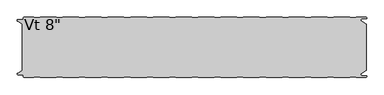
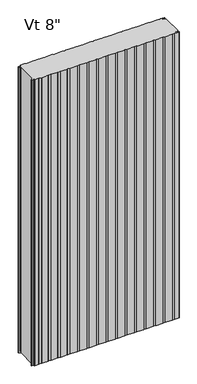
"""IFC4 building model written with IfcOpenShell, lengths in millimetres: plate geometry."""

from ifc_helpers import new_model, si_unit, frame, origin, place, context, project, spatial, polyline, circle_curve, source, transform, mapped, element, save
from ifc_brep_helpers import plane_surface, cylinder_surface, revolved_surface, advanced_brep


def plate_b740a0b7(model_context):
    return source(origin(), model_context, "Body", "AdvancedBrep", [
        advanced_brep(
        [(521.5205195, -201.0088405, 2400.0), (541.3035142, -201.0088405, 2400.0), (542.3760351, -202.1999956, 2400.0), (574.5475652, -202.1999956, 2400.0), (576.5248337, -200.2227271, 2400.0), (576.5248337, -199.1806285, 2400.0), (574.5475652, -197.20336, 2400.0), (560.3591802, -197.20336, 2400.0), (557.7713036, -194.6154835, 2400.0), (557.7713036, -190.2950653, 2400.0), (557.1628365, -189.7060718, 2400.0), (554.7857432, -189.7060718, 2400.0), (554.7857432, -188.7065979, 2400.0), (560.2280123, -188.7065979, 2400.0), (576.2625, -179.4490821, 2400.0), (576.2625, -23.7509179, 2400.0), (560.2280123, -14.4934021, 2400.0), (554.7857432, -14.4934021, 2400.0), (554.7857432, -13.4939282, 2400.0), (557.1628365, -13.4939282, 2400.0), (557.7713036, -12.9049347, 2400.0), (557.7713036, -8.5845165, 2400.0), (560.3591802, -5.99664, 2400.0), (574.5475652, -5.99664, 2400.0), (576.5248337, -4.0193715, 2400.0), (576.5248337, -2.9772729, 2400.0), (574.5475652, -1.0000044, 2400.0), (542.3760351, -1.0000044, 2400.0), (541.3035142, -2.1911595, 2400.0), (521.5205195, -2.1911595, 2400.0), (520.4479947, -1.0, 2400.0), (466.7534187, -1.0, 2400.0), (465.6808939, -2.1911595, 2400.0), (445.8978992, -2.1911595, 2400.0), (444.8253744, -1.0, 2400.0), (391.1307985, -1.0, 2400.0), (390.0582736, -2.1911595, 2400.0), (370.275279, -2.1911595, 2400.0), (369.2027541, -1.0, 2400.0), (315.5081782, -1.0, 2400.0), (314.4356534, -2.1911595, 2400.0), (294.6526587, -2.1911595, 2400.0), (293.5801339, -1.0, 2400.0), (239.885558, -1.0, 2400.0), (238.8130331, -2.1911595, 2400.0), (219.0300384, -2.1911595, 2400.0), (217.9575136, -1.0, 2400.0), (164.2629377, -1.0, 2400.0), (163.1904129, -2.1911595, 2400.0), (143.4074182, -2.1911595, 2400.0), (142.3348933, -1.0, 2400.0), (88.6403174, -1.0, 2400.0), (87.5677926, -2.1911595, 2400.0), (67.7847979, -2.1911595, 2400.0), (66.7122731, -1.0, 2400.0), (13.0176972, -1.0, 2400.0), (11.9451723, -2.1911595, 2400.0), (-7.8378224, -2.1911595, 2400.0), (-8.9103472, -1.0, 2400.0), (-62.6049231, -1.0, 2400.0), (-63.6774479, -2.1911595, 2400.0), (-83.4604426, -2.1911595, 2400.0), (-84.5329675, -1.0, 2400.0), (-138.2275434, -1.0, 2400.0), (-139.3000682, -2.1911595, 2400.0), (-159.0830629, -2.1911595, 2400.0), (-160.1555877, -1.0, 2400.0), (-213.8501636, -1.0, 2400.0), (-214.9226885, -2.1911595, 2400.0), (-234.7056831, -2.1911595, 2400.0), (-235.778208, -1.0, 2400.0), (-289.4727839, -1.0, 2400.0), (-290.5453087, -2.1911595, 2400.0), (-310.3283034, -2.1911595, 2400.0), (-311.4008282, -1.0, 2400.0), (-365.0954042, -1.0, 2400.0), (-366.167929, -2.1911595, 2400.0), (-385.9509237, -2.1911595, 2400.0), (-387.0234485, -1.0, 2400.0), (-440.7180244, -1.0, 2400.0), (-441.7905493, -2.1911595, 2400.0), (-461.5735439, -2.1911595, 2400.0), (-462.6460688, -1.0, 2400.0), (-516.3406447, -1.0, 2400.0), (-517.4131695, -2.1911595, 2400.0), (-537.1961642, -2.1911595, 2400.0), (-538.268689, -1.0000109, 2400.0), (-570.4352761, -1.0000109, 2400.0), (-572.4125501, -2.9772849, 2400.0), (-572.4125501, -5.2691749, 2400.0), (-576.3898173, -9.246442, 2400.0), (-591.9862417, -9.246442, 2400.0), (-592.5741186, -9.8343189, 2400.0), (-592.5741186, -12.9058679, 2400.0), (-591.986242, -13.4937446, 2400.0), (-589.6312064, -13.4937446, 2400.0), (-589.6312064, -14.4937446, 2400.0), (-591.9207851, -14.4937446, 2400.0), (-576.2625, -23.7509179, 2400.0), (-576.2625, -179.4490865, 2400.0), (-591.9207851, -188.7062554, 2400.0), (-589.6312064, -188.7062554, 2400.0), (-589.6312064, -189.7062554, 2400.0), (-591.986242, -189.7062554, 2400.0), (-592.5741186, -190.2941321, 2400.0), (-592.5741186, -193.3656811, 2400.0), (-591.9862417, -193.953558, 2400.0), (-576.3898173, -193.953558, 2400.0), (-572.4125501, -197.9308251, 2400.0), (-572.4125501, -200.2227151, 2400.0), (-570.4352761, -202.1999891, 2400.0), (-538.268689, -202.1999891, 2400.0), (-537.1961642, -201.0088405, 2400.0), (-517.4131695, -201.0088405, 2400.0), (-516.3406447, -202.2, 2400.0), (-462.6460688, -202.2, 2400.0), (-461.5735439, -201.0088405, 2400.0), (-441.7905493, -201.0088405, 2400.0), (-440.7180244, -202.2, 2400.0), (-387.0234485, -202.2, 2400.0), (-385.9509237, -201.0088405, 2400.0), (-366.167929, -201.0088405, 2400.0), (-365.0954042, -202.2, 2400.0), (-311.4008282, -202.2, 2400.0), (-310.3283034, -201.0088405, 2400.0), (-290.5453087, -201.0088405, 2400.0), (-289.4727839, -202.2, 2400.0), (-235.778208, -202.2, 2400.0), (-234.7056831, -201.0088405, 2400.0), (-214.9226885, -201.0088405, 2400.0), (-213.8501636, -202.2, 2400.0), (-160.1555877, -202.2, 2400.0), (-159.0830629, -201.0088405, 2400.0), (-139.3000682, -201.0088405, 2400.0), (-138.2275434, -202.2, 2400.0), (-84.5329675, -202.2, 2400.0), (-83.4604426, -201.0088405, 2400.0), (-63.6774479, -201.0088405, 2400.0), (-62.6049231, -202.2, 2400.0), (-8.9103472, -202.2, 2400.0), (-7.8378224, -201.0088405, 2400.0), (11.9451723, -201.0088405, 2400.0), (13.0176972, -202.2, 2400.0), (66.7122731, -202.2, 2400.0), (67.7847979, -201.0088405, 2400.0), (87.5677926, -201.0088405, 2400.0), (88.6403174, -202.2, 2400.0), (142.3348933, -202.2, 2400.0), (143.4074182, -201.0088405, 2400.0), (163.1904129, -201.0088405, 2400.0), (164.2629377, -202.2, 2400.0), (217.9575136, -202.2, 2400.0), (219.0300384, -201.0088405, 2400.0), (238.8130331, -201.0088405, 2400.0), (239.885558, -202.2, 2400.0), (293.5801339, -202.2, 2400.0), (294.6526587, -201.0088405, 2400.0), (314.4356534, -201.0088405, 2400.0), (315.5081782, -202.2, 2400.0), (369.2027541, -202.2, 2400.0), (370.275279, -201.0088405, 2400.0), (390.0582736, -201.0088405, 2400.0), (391.1307985, -202.2, 2400.0), (444.8253744, -202.2, 2400.0), (445.8978992, -201.0088405, 2400.0), (465.6808939, -201.0088405, 2400.0), (466.7534187, -202.2, 2400.0), (520.4479947, -202.2, 2400.0), (521.5205195, -201.0088405, 0.0), (520.4479947, -202.2, 0.0), (466.7534187, -202.2, 0.0), (465.6808939, -201.0088405, 0.0), (445.8978992, -201.0088405, 0.0), (444.8253744, -202.2, 0.0), (391.1307985, -202.2, 0.0), (390.0582736, -201.0088405, 0.0), (370.275279, -201.0088405, 0.0), (369.2027541, -202.2, 0.0), (315.5081782, -202.2, 0.0), (314.4356534, -201.0088405, 0.0), (294.6526587, -201.0088405, 0.0), (293.5801339, -202.2, 0.0), (239.885558, -202.2, 0.0), (238.8130331, -201.0088405, 0.0), (219.0300384, -201.0088405, 0.0), (217.9575136, -202.2, 0.0), (164.2629377, -202.2, 0.0), (163.1904129, -201.0088405, 0.0), (143.4074182, -201.0088405, 0.0), (142.3348933, -202.2, 0.0), (88.6403174, -202.2, 0.0), (87.5677926, -201.0088405, 0.0), (67.7847979, -201.0088405, 0.0), (66.7122731, -202.2, 0.0), (13.0176972, -202.2, 0.0), (11.9451723, -201.0088405, 0.0), (-7.8378224, -201.0088405, 0.0), (-8.9103472, -202.2, 0.0), (-62.6049231, -202.2, 0.0), (-63.6774479, -201.0088405, 0.0), (-83.4604426, -201.0088405, 0.0), (-84.5329675, -202.2, 0.0), (-138.2275434, -202.2, 0.0), (-139.3000682, -201.0088405, 0.0), (-159.0830629, -201.0088405, 0.0), (-160.1555877, -202.2, 0.0), (-213.8501636, -202.2, 0.0), (-214.9226885, -201.0088405, 0.0), (-234.7056831, -201.0088405, 0.0), (-235.778208, -202.2, 0.0), (-289.4727839, -202.2, 0.0), (-290.5453087, -201.0088405, 0.0), (-310.3283034, -201.0088405, 0.0), (-311.4008282, -202.2, 0.0), (-365.0954042, -202.2, 0.0), (-366.167929, -201.0088405, 0.0), (-385.9509237, -201.0088405, 0.0), (-387.0234485, -202.2, 0.0), (-440.7180244, -202.2, 0.0), (-441.7905493, -201.0088405, 0.0), (-461.5735439, -201.0088405, 0.0), (-462.6460688, -202.2, 0.0), (-516.3406447, -202.2, 0.0), (-517.4131695, -201.0088405, 0.0), (-537.1961642, -201.0088405, 0.0), (-538.268689, -202.1999891, 0.0), (-570.4352761, -202.1999891, 0.0), (-572.4125501, -200.2227151, 0.0), (-572.4125501, -197.9308251, 0.0), (-576.3898173, -193.953558, 0.0), (-591.9862417, -193.953558, 0.0), (-592.5741186, -193.3656811, 0.0), (-592.5741186, -190.2941321, 0.0), (-591.986242, -189.7062554, 0.0), (-589.6312064, -189.7062554, 0.0), (-589.6312064, -188.7062554, 0.0), (-591.9207851, -188.7062554, 0.0), (-576.2625, -179.4490821, 0.0), (-576.2625, -23.7509179, 0.0), (-591.9207851, -14.4937446, 0.0), (-589.6312064, -14.4937446, 0.0), (-589.6312064, -13.4937446, 0.0), (-591.986242, -13.4937446, 0.0), (-592.5741186, -12.9058679, 0.0), (-592.5741186, -9.8343189, 0.0), (-591.9862417, -9.246442, 0.0), (-576.3898173, -9.246442, 0.0), (-572.4125501, -5.2691749, 0.0), (-572.4125501, -2.9772849, 0.0), (-570.4352761, -1.0000109, 0.0), (-538.268689, -1.0000109, 0.0), (-537.1961642, -2.1911595, 0.0), (-517.4131695, -2.1911595, 0.0), (-516.3406447, -1.0, 0.0), (-462.6460688, -1.0, 0.0), (-461.5735439, -2.1911595, 0.0), (-441.7905493, -2.1911595, 0.0), (-440.7180244, -1.0, 0.0), (-387.0234485, -1.0, 0.0), (-385.9509237, -2.1911595, 0.0), (-366.167929, -2.1911595, 0.0), (-365.0954042, -1.0, 0.0), (-311.4008282, -1.0, 0.0), (-310.3283034, -2.1911595, 0.0), (-290.5453087, -2.1911595, 0.0), (-289.4727839, -1.0, 0.0), (-235.778208, -1.0, 0.0), (-234.7056831, -2.1911595, 0.0), (-214.9226885, -2.1911595, 0.0), (-213.8501636, -1.0, 0.0), (-160.1555877, -1.0, 0.0), (-159.0830629, -2.1911595, 0.0), (-139.3000682, -2.1911595, 0.0), (-138.2275434, -1.0, 0.0), (-84.5329675, -1.0, 0.0), (-83.4604426, -2.1911595, 0.0), (-63.6774479, -2.1911595, 0.0), (-62.6049231, -1.0, 0.0), (-8.9103472, -1.0, 0.0), (-7.8378224, -2.1911595, 0.0), (11.9451723, -2.1911595, 0.0), (13.0176972, -1.0, 0.0), (66.7122731, -1.0, 0.0), (67.7847979, -2.1911595, 0.0), (87.5677926, -2.1911595, 0.0), (88.6403174, -1.0, 0.0), (142.3348933, -1.0, 0.0), (143.4074182, -2.1911595, 0.0), (163.1904129, -2.1911595, 0.0), (164.2629377, -1.0, 0.0), (217.9575136, -1.0, 0.0), (219.0300384, -2.1911595, 0.0), (238.8130331, -2.1911595, 0.0), (239.885558, -1.0, 0.0), (293.5801339, -1.0, 0.0), (294.6526587, -2.1911595, 0.0), (314.4356534, -2.1911595, 0.0), (315.5081782, -1.0, 0.0), (369.2027541, -1.0, 0.0), (370.275279, -2.1911595, 0.0), (390.0582736, -2.1911595, 0.0), (391.1307985, -1.0, 0.0), (444.8253744, -1.0, 0.0), (445.8978992, -2.1911595, 0.0), (465.6808939, -2.1911595, 0.0), (466.7534187, -1.0, 0.0), (520.4479947, -1.0, 0.0), (521.5205195, -2.1911595, 0.0), (541.3035142, -2.1911595, 0.0), (542.3760351, -1.0000044, 0.0), (574.5475652, -1.0000044, 0.0), (576.5248337, -2.9772729, 0.0), (576.5248337, -4.0193715, 0.0), (574.5475652, -5.99664, 0.0), (560.3591802, -5.99664, 0.0), (557.7713036, -8.5845165, 0.0), (557.7713036, -12.9049347, 0.0), (557.1628365, -13.4939282, 0.0), (554.7857432, -13.4939282, 0.0), (554.7857432, -14.4934021, 0.0), (560.2280123, -14.4934021, 0.0), (576.2625, -23.7509179, 0.0), (576.2625, -179.4490865, 0.0), (560.2280123, -188.7065979, 0.0), (554.7857432, -188.7065979, 0.0), (554.7857432, -189.7060718, 0.0), (557.1628365, -189.7060718, 0.0), (557.7713036, -190.2950653, 0.0), (557.7713036, -194.6154835, 0.0), (560.3591802, -197.20336, 0.0), (574.5475652, -197.20336, 0.0), (576.5248337, -199.1806285, 0.0), (576.5248337, -200.2227271, 0.0), (574.5475652, -202.1999956, 0.0), (542.3760351, -202.1999956, 0.0), (541.3035142, -201.0088405, 0.0)],
        [
            (0, 1),
            (1, 2),
            (2, 3),
            (3, 4, circle_curve(frame((574.5475652, -200.2227271, 2400.0), z_axis=(0.0, 0.0, 1.0), x_axis=(-1.0, 0.0, 0.0)), 1.9772685)),
            (4, 5),
            (5, 6, circle_curve(frame((574.5475652, -199.1806285, 2400.0), z_axis=(0.0, 0.0, 1.0), x_axis=(-1.0, 0.0, 0.0)), 1.9772685)),
            (6, 7),
            (7, 8, circle_curve(frame((560.3591802, -194.6154835, 2400.0), z_axis=(0.0, 0.0, -1.0), x_axis=(-1.0, 0.0, 0.0)), 2.5878765)),
            (8, 9),
            (9, 10, circle_curve(frame((557.1819985, -190.2950653, 2400.0), z_axis=(0.0, 0.0, 1.0), x_axis=(-1.0, 0.0, 0.0)), 0.5893051)),
            (10, 11),
            (11, 12),
            (12, 13),
            (13, 14),
            (14, 15),
            (15, 16),
            (16, 17),
            (17, 18),
            (18, 19),
            (19, 20, circle_curve(frame((557.1819985, -12.9049347, 2400.0), z_axis=(0.0, 0.0, 1.0), x_axis=(0.0, 1.0, 0.0)), 0.5893051)),
            (20, 21),
            (21, 22, circle_curve(frame((560.3591802, -8.5845165, 2400.0), z_axis=(0.0, 0.0, -1.0), x_axis=(0.0, 1.0, 0.0)), 2.5878765)),
            (22, 23),
            (23, 24, circle_curve(frame((574.5475652, -4.0193715, 2400.0), z_axis=(0.0, 0.0, 1.0), x_axis=(0.0, 1.0, 0.0)), 1.9772685)),
            (24, 25),
            (25, 26, circle_curve(frame((574.5475652, -2.9772729, 2400.0), z_axis=(0.0, 0.0, 1.0), x_axis=(0.0, 1.0, 0.0)), 1.9772685)),
            (26, 27),
            (27, 28),
            (28, 29),
            (29, 30),
            (30, 31),
            (31, 32),
            (32, 33),
            (33, 34),
            (34, 35),
            (35, 36),
            (36, 37),
            (37, 38),
            (38, 39),
            (39, 40),
            (40, 41),
            (41, 42),
            (42, 43),
            (43, 44),
            (44, 45),
            (45, 46),
            (46, 47),
            (47, 48),
            (48, 49),
            (49, 50),
            (50, 51),
            (51, 52),
            (52, 53),
            (53, 54),
            (54, 55),
            (55, 56),
            (56, 57),
            (57, 58),
            (58, 59),
            (59, 60),
            (60, 61),
            (61, 62),
            (62, 63),
            (63, 64),
            (64, 65),
            (65, 66),
            (66, 67),
            (67, 68),
            (68, 69),
            (69, 70),
            (70, 71),
            (71, 72),
            (72, 73),
            (73, 74),
            (74, 75),
            (75, 76),
            (76, 77),
            (77, 78),
            (78, 79),
            (79, 80),
            (80, 81),
            (81, 82),
            (82, 83),
            (83, 84),
            (84, 85),
            (85, 86),
            (86, 87),
            (87, 88, circle_curve(frame((-570.4352761, -2.9772849, 2400.0), z_axis=(0.0, 0.0, 1.0), x_axis=(0.0, 1.0, 0.0)), 1.977274)),
            (88, 89),
            (89, 90, circle_curve(frame((-576.3898173, -5.2691749, 2400.0), z_axis=(0.0, 0.0, -1.0), x_axis=(0.0, 1.0, 0.0)), 3.9772671)),
            (90, 91),
            (91, 92, circle_curve(frame((-591.9862417, -9.8343189, 2400.0), z_axis=(0.0, 0.0, 1.0), x_axis=(0.0, 1.0, 0.0)), 0.5878769)),
            (92, 93),
            (93, 94, circle_curve(frame((-591.986242, -12.9058679, 2400.0), z_axis=(0.0, 0.0, 1.0), x_axis=(0.0, 1.0, 0.0)), 0.5878766)),
            (94, 95),
            (95, 96),
            (96, 97),
            (97, 98),
            (98, 99),
            (99, 100),
            (100, 101),
            (101, 102),
            (102, 103),
            (103, 104, circle_curve(frame((-591.986242, -190.2941321, 2400.0), z_axis=(0.0, 0.0, 1.0), x_axis=(-1.0, 0.0, 0.0)), 0.5878766)),
            (104, 105),
            (105, 106, circle_curve(frame((-591.9862417, -193.3656811, 2400.0), z_axis=(0.0, 0.0, 1.0), x_axis=(-1.0, 0.0, 0.0)), 0.5878769)),
            (106, 107),
            (107, 108, circle_curve(frame((-576.3898173, -197.9308251, 2400.0), z_axis=(0.0, 0.0, -1.0), x_axis=(-1.0, 0.0, 0.0)), 3.9772671)),
            (108, 109),
            (109, 110, circle_curve(frame((-570.4352761, -200.2227151, 2400.0), z_axis=(0.0, 0.0, 1.0), x_axis=(-1.0, 0.0, 0.0)), 1.977274)),
            (110, 111),
            (111, 112),
            (112, 113),
            (113, 114),
            (114, 115),
            (115, 116),
            (116, 117),
            (117, 118),
            (118, 119),
            (119, 120),
            (120, 121),
            (121, 122),
            (122, 123),
            (123, 124),
            (124, 125),
            (125, 126),
            (126, 127),
            (127, 128),
            (128, 129),
            (129, 130),
            (130, 131),
            (131, 132),
            (132, 133),
            (133, 134),
            (134, 135),
            (135, 136),
            (136, 137),
            (137, 138),
            (138, 139),
            (139, 140),
            (140, 141),
            (141, 142),
            (142, 143),
            (143, 144),
            (144, 145),
            (145, 146),
            (146, 147),
            (147, 148),
            (148, 149),
            (149, 150),
            (150, 151),
            (151, 152),
            (152, 153),
            (153, 154),
            (154, 155),
            (155, 156),
            (156, 157),
            (157, 158),
            (158, 159),
            (159, 160),
            (160, 161),
            (161, 162),
            (162, 163),
            (163, 164),
            (164, 165),
            (165, 166),
            (166, 167),
            (167, 0),
            (168, 169),
            (169, 170),
            (170, 171),
            (171, 172),
            (172, 173),
            (173, 174),
            (174, 175),
            (175, 176),
            (176, 177),
            (177, 178),
            (178, 179),
            (179, 180),
            (180, 181),
            (181, 182),
            (182, 183),
            (183, 184),
            (184, 185),
            (185, 186),
            (186, 187),
            (187, 188),
            (188, 189),
            (189, 190),
            (190, 191),
            (191, 192),
            (192, 193),
            (193, 194),
            (194, 195),
            (195, 196),
            (196, 197),
            (197, 198),
            (198, 199),
            (199, 200),
            (200, 201),
            (201, 202),
            (202, 203),
            (203, 204),
            (204, 205),
            (205, 206),
            (206, 207),
            (207, 208),
            (208, 209),
            (209, 210),
            (210, 211),
            (211, 212),
            (212, 213),
            (213, 214),
            (214, 215),
            (215, 216),
            (216, 217),
            (217, 218),
            (218, 219),
            (219, 220),
            (220, 221),
            (221, 222),
            (222, 223),
            (223, 224),
            (224, 225),
            (225, 226),
            (226, 227, circle_curve(frame((-570.4352761, -200.2227151, 0.0), z_axis=(0.0, 0.0, -1.0), x_axis=(-1.0, 0.0, 0.0)), 1.977274)),
            (227, 228),
            (228, 229, circle_curve(frame((-576.3898173, -197.9308251, 0.0), z_axis=(0.0, 0.0, 1.0), x_axis=(-1.0, 0.0, 0.0)), 3.9772671)),
            (229, 230),
            (230, 231, circle_curve(frame((-591.9862417, -193.3656811, 0.0), z_axis=(0.0, 0.0, -1.0), x_axis=(-1.0, 0.0, 0.0)), 0.5878769)),
            (231, 232),
            (232, 233, circle_curve(frame((-591.986242, -190.2941321, 0.0), z_axis=(0.0, 0.0, -1.0), x_axis=(-1.0, 0.0, 0.0)), 0.5878766)),
            (233, 234),
            (234, 235),
            (235, 236),
            (236, 237),
            (237, 238),
            (238, 239),
            (239, 240),
            (240, 241),
            (241, 242),
            (242, 243, circle_curve(frame((-591.986242, -12.9058679, 0.0), z_axis=(0.0, 0.0, -1.0), x_axis=(0.0, 1.0, 0.0)), 0.5878766)),
            (243, 244),
            (244, 245, circle_curve(frame((-591.9862417, -9.8343189, 0.0), z_axis=(0.0, 0.0, -1.0), x_axis=(0.0, 1.0, 0.0)), 0.5878769)),
            (245, 246),
            (246, 247, circle_curve(frame((-576.3898173, -5.2691749, 0.0), z_axis=(0.0, 0.0, 1.0), x_axis=(0.0, 1.0, 0.0)), 3.9772671)),
            (247, 248),
            (248, 249, circle_curve(frame((-570.4352761, -2.9772849, 0.0), z_axis=(0.0, 0.0, -1.0), x_axis=(0.0, 1.0, 0.0)), 1.977274)),
            (249, 250),
            (250, 251),
            (251, 252),
            (252, 253),
            (253, 254),
            (254, 255),
            (255, 256),
            (256, 257),
            (257, 258),
            (258, 259),
            (259, 260),
            (260, 261),
            (261, 262),
            (262, 263),
            (263, 264),
            (264, 265),
            (265, 266),
            (266, 267),
            (267, 268),
            (268, 269),
            (269, 270),
            (270, 271),
            (271, 272),
            (272, 273),
            (273, 274),
            (274, 275),
            (275, 276),
            (276, 277),
            (277, 278),
            (278, 279),
            (279, 280),
            (280, 281),
            (281, 282),
            (282, 283),
            (283, 284),
            (284, 285),
            (285, 286),
            (286, 287),
            (287, 288),
            (288, 289),
            (289, 290),
            (290, 291),
            (291, 292),
            (292, 293),
            (293, 294),
            (294, 295),
            (295, 296),
            (296, 297),
            (297, 298),
            (298, 299),
            (299, 300),
            (300, 301),
            (301, 302),
            (302, 303),
            (303, 304),
            (304, 305),
            (305, 306),
            (306, 307),
            (307, 308),
            (308, 309),
            (309, 310),
            (310, 311, circle_curve(frame((574.5475652, -2.9772729, 0.0), z_axis=(0.0, 0.0, -1.0), x_axis=(0.0, 1.0, 0.0)), 1.9772685)),
            (311, 312),
            (312, 313, circle_curve(frame((574.5475652, -4.0193715, 0.0), z_axis=(0.0, 0.0, -1.0), x_axis=(0.0, 1.0, 0.0)), 1.9772685)),
            (313, 314),
            (314, 315, circle_curve(frame((560.3591802, -8.5845165, 0.0), z_axis=(0.0, 0.0, 1.0), x_axis=(0.0, 1.0, 0.0)), 2.5878765)),
            (315, 316),
            (316, 317, circle_curve(frame((557.1819985, -12.9049347, 0.0), z_axis=(0.0, 0.0, -1.0), x_axis=(0.0, 1.0, 0.0)), 0.5893051)),
            (317, 318),
            (318, 319),
            (319, 320),
            (320, 321),
            (321, 322),
            (322, 323),
            (323, 324),
            (324, 325),
            (325, 326),
            (326, 327, circle_curve(frame((557.1819985, -190.2950653, 0.0), z_axis=(0.0, 0.0, -1.0), x_axis=(-1.0, 0.0, 0.0)), 0.5893051)),
            (327, 328),
            (328, 329, circle_curve(frame((560.3591802, -194.6154835, 0.0), z_axis=(0.0, 0.0, 1.0), x_axis=(-1.0, 0.0, 0.0)), 2.5878765)),
            (329, 330),
            (330, 331, circle_curve(frame((574.5475652, -199.1806285, 0.0), z_axis=(0.0, 0.0, -1.0), x_axis=(-1.0, 0.0, 0.0)), 1.9772685)),
            (331, 332),
            (332, 333, circle_curve(frame((574.5475652, -200.2227271, 0.0), z_axis=(0.0, 0.0, -1.0), x_axis=(-1.0, 0.0, 0.0)), 1.9772685)),
            (333, 334),
            (334, 335),
            (335, 168),
            (98, 238),
            (237, 99),
            (14, 322),
            (321, 15),
            (28, 308),
            (307, 29),
            (27, 309),
            (26, 310),
            (25, 311),
            (24, 312),
            (23, 313),
            (22, 314),
            (21, 315),
            (20, 316),
            (19, 317),
            (18, 318),
            (17, 319),
            (16, 320),
            (97, 239),
            (96, 240),
            (95, 241),
            (94, 242),
            (93, 243),
            (92, 244),
            (91, 245),
            (90, 246),
            (89, 247),
            (88, 248),
            (87, 249),
            (86, 250),
            (85, 251),
            (84, 252),
            (83, 253),
            (82, 254),
            (81, 255),
            (80, 256),
            (79, 257),
            (78, 258),
            (77, 259),
            (76, 260),
            (75, 261),
            (74, 262),
            (73, 263),
            (72, 264),
            (71, 265),
            (70, 266),
            (69, 267),
            (68, 268),
            (67, 269),
            (66, 270),
            (65, 271),
            (64, 272),
            (63, 273),
            (62, 274),
            (61, 275),
            (60, 276),
            (59, 277),
            (58, 278),
            (57, 279),
            (56, 280),
            (55, 281),
            (54, 282),
            (53, 283),
            (52, 284),
            (51, 285),
            (50, 286),
            (49, 287),
            (48, 288),
            (47, 289),
            (46, 290),
            (45, 291),
            (44, 292),
            (43, 293),
            (42, 294),
            (41, 295),
            (40, 296),
            (39, 297),
            (38, 298),
            (37, 299),
            (36, 300),
            (35, 301),
            (34, 302),
            (33, 303),
            (32, 304),
            (31, 305),
            (30, 306),
            (167, 169),
            (168, 0),
            (166, 170),
            (165, 171),
            (164, 172),
            (163, 173),
            (162, 174),
            (161, 175),
            (160, 176),
            (159, 177),
            (158, 178),
            (157, 179),
            (156, 180),
            (155, 181),
            (154, 182),
            (153, 183),
            (152, 184),
            (151, 185),
            (150, 186),
            (149, 187),
            (148, 188),
            (147, 189),
            (146, 190),
            (145, 191),
            (144, 192),
            (143, 193),
            (142, 194),
            (141, 195),
            (140, 196),
            (139, 197),
            (138, 198),
            (137, 199),
            (136, 200),
            (135, 201),
            (134, 202),
            (133, 203),
            (132, 204),
            (131, 205),
            (130, 206),
            (129, 207),
            (128, 208),
            (127, 209),
            (126, 210),
            (125, 211),
            (124, 212),
            (123, 213),
            (122, 214),
            (121, 215),
            (120, 216),
            (119, 217),
            (118, 218),
            (117, 219),
            (116, 220),
            (115, 221),
            (114, 222),
            (113, 223),
            (112, 224),
            (111, 225),
            (110, 226),
            (109, 227),
            (108, 228),
            (107, 229),
            (106, 230),
            (105, 231),
            (104, 232),
            (103, 233),
            (102, 234),
            (101, 235),
            (100, 236),
            (13, 323),
            (12, 324),
            (11, 325),
            (10, 326),
            (9, 327),
            (8, 328),
            (7, 329),
            (6, 330),
            (5, 331),
            (4, 332),
            (3, 333),
            (2, 334),
            (1, 335),
        ],
        [
            plane_surface(frame((0.0, -202.2, 2400.0), z_axis=(0.0, 0.0, 1.0), x_axis=(0.0, -1.0, 0.0))),
            plane_surface(frame((0.0, -202.2, 0.0), z_axis=(0.0, 0.0, -1.0), x_axis=(0.0, -1.0, 0.0))),
            plane_surface(frame((-576.2625, -179.4490865, 2400.0), z_axis=(-1.0, 0.0, 0.0), x_axis=(0.0, 0.0, -1.0))),
            plane_surface(frame((576.2625, -23.7509179, 2400.0), z_axis=(1.0, 0.0, 0.0), x_axis=(0.0, 0.0, -1.0))),
            plane_surface(frame((521.5205195, -2.1911595, 2400.0), z_axis=(0.0, 1.0, 0.0), x_axis=(0.0, 0.0, -1.0))),
            plane_surface(frame((541.3035142, -2.1911595, 2400.0), z_axis=(-0.7431448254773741, 0.6691306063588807, 0.0), x_axis=(0.0, 0.0, -1.0))),
            plane_surface(frame((542.3760351, -1.0000044, 2400.0), z_axis=(0.0, 1.0, 0.0), x_axis=(0.0, 0.0, -1.0))),
            cylinder_surface(frame((574.5475652, -2.9772729, 2400.0), z_axis=(0.0, 0.0, 1.0), x_axis=(0.0, 1.0, 0.0)), 1.9772685),
            plane_surface(frame((576.5248337, -2.9772729, 2400.0), z_axis=(1.0, 0.0, 0.0), x_axis=(0.0, 0.0, -1.0))),
            cylinder_surface(frame((574.5475652, -4.0193715, 2400.0), z_axis=(0.0, 0.0, 1.0), x_axis=(0.0, 1.0, 0.0)), 1.9772685),
            plane_surface(frame((574.5475652, -5.99664, 2400.0), z_axis=(0.0, -1.0, 0.0), x_axis=(0.0, 0.0, -1.0))),
            revolved_surface(polyline([(560.3591802, -5.996639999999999, 0.0), (560.3591802, -5.996639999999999, 2400.0)]), (560.3591802, -8.5845165, 2400.0), (0.0, 0.0, -1.0)),
            plane_surface(frame((557.7713036, -8.5845165, 2400.0), z_axis=(1.0, 0.0, 0.0), x_axis=(0.0, 0.0, -1.0))),
            cylinder_surface(frame((557.1819985, -12.9049347, 2400.0), z_axis=(0.0, 0.0, 1.0), x_axis=(0.0, 1.0, 0.0)), 0.5893051),
            plane_surface(frame((557.1628365, -13.4939282, 2400.0), z_axis=(0.0, -1.0, 0.0), x_axis=(0.0, 0.0, -1.0))),
            plane_surface(frame((554.7857432, -13.4939282, 2400.0), z_axis=(1.0, 0.0, 0.0), x_axis=(0.0, 0.0, -1.0))),
            plane_surface(frame((554.7857432, -14.4934021, 2400.0), z_axis=(0.0, 1.0, 0.0), x_axis=(0.0, 0.0, -1.0))),
            plane_surface(frame((560.2280123, -14.4934021, 2400.0), z_axis=(0.5000000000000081, 0.866025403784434, 0.0), x_axis=(0.0, 0.0, -1.0))),
            plane_surface(frame((-576.2625, -23.7509179, 2400.0), z_axis=(-0.5089147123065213, -0.860816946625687, 0.0), x_axis=(0.0, 0.0, -1.0))),
            plane_surface(frame((-591.9207851, -14.4937446, 2400.0), z_axis=(0.0, 1.0, 0.0), x_axis=(0.0, 0.0, -1.0))),
            plane_surface(frame((-589.6312064, -14.4937446, 2400.0), z_axis=(-1.0, 0.0, 0.0), x_axis=(0.0, 0.0, -1.0))),
            plane_surface(frame((-589.6312064, -13.4937446, 2400.0), z_axis=(0.0, -1.0, 0.0), x_axis=(0.0, 0.0, -1.0))),
            cylinder_surface(frame((-591.986242, -12.9058679, 2400.0), z_axis=(0.0, 0.0, 1.0), x_axis=(0.0, 1.0, 0.0)), 0.5878766),
            plane_surface(frame((-592.5741186, -12.9058679, 2400.0), z_axis=(-1.0, 0.0, 0.0), x_axis=(0.0, 0.0, -1.0))),
            cylinder_surface(frame((-591.9862417, -9.8343189, 2400.0), z_axis=(0.0, 0.0, 1.0), x_axis=(0.0, 1.0, 0.0)), 0.5878769),
            plane_surface(frame((-591.9862417, -9.246442, 2400.0), z_axis=(0.0, 1.0, 0.0), x_axis=(0.0, 0.0, -1.0))),
            revolved_surface(polyline([(-576.3898173, -1.2919078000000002, 0.0), (-576.3898173, -1.2919078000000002, 2400.0)]), (-576.3898173, -5.2691749, 2400.0), (0.0, 0.0, -1.0)),
            plane_surface(frame((-572.4125501, -5.2691749, 2400.0), z_axis=(-1.0, 0.0, 0.0), x_axis=(0.0, 0.0, -1.0))),
            cylinder_surface(frame((-570.4352761, -2.9772849, 2400.0), z_axis=(0.0, 0.0, 1.0), x_axis=(0.0, 1.0, 0.0)), 1.977274),
            plane_surface(frame((-570.4352761, -1.0000109, 2400.0), z_axis=(0.0, 1.0, 0.0), x_axis=(0.0, 0.0, -1.0))),
            plane_surface(frame((-538.268689, -1.0000109, 2400.0), z_axis=(0.7431417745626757, 0.669133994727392, 0.0), x_axis=(0.0, 0.0, -1.0))),
            plane_surface(frame((-537.1961642, -2.1911595, 2400.0), z_axis=(0.0, 1.0, 0.0), x_axis=(0.0, 0.0, -1.0))),
            plane_surface(frame((-517.4131695, -2.1911595, 2400.0), z_axis=(-0.7431448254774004, 0.6691306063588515, 0.0), x_axis=(0.0, 0.0, -1.0))),
            plane_surface(frame((-516.3406447, -1.0, 2400.0), z_axis=(0.0, 1.0, 0.0), x_axis=(0.0, 0.0, -1.0))),
            plane_surface(frame((-462.6460688, -1.0, 2400.0), z_axis=(0.7431448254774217, 0.6691306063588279, 0.0), x_axis=(0.0, 0.0, -1.0))),
            plane_surface(frame((-461.5735439, -2.1911595, 2400.0), z_axis=(0.0, 1.0, 0.0), x_axis=(0.0, 0.0, -1.0))),
            plane_surface(frame((-441.7905493, -2.1911595, 2400.0), z_axis=(-0.7431448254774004, 0.6691306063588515, 0.0), x_axis=(0.0, 0.0, -1.0))),
            plane_surface(frame((-440.7180244, -1.0, 2400.0), z_axis=(0.0, 1.0, 0.0), x_axis=(0.0, 0.0, -1.0))),
            plane_surface(frame((-387.0234485, -1.0, 2400.0), z_axis=(0.7431448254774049, 0.6691306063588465, 0.0), x_axis=(0.0, 0.0, -1.0))),
            plane_surface(frame((-385.9509237, -2.1911595, 2400.0), z_axis=(0.0, 1.0, 0.0), x_axis=(0.0, 0.0, -1.0))),
            plane_surface(frame((-366.167929, -2.1911595, 2400.0), z_axis=(-0.7431448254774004, 0.6691306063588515, 0.0), x_axis=(0.0, 0.0, -1.0))),
            plane_surface(frame((-365.0954042, -1.0, 2400.0), z_axis=(0.0, 1.0, 0.0), x_axis=(0.0, 0.0, -1.0))),
            plane_surface(frame((-311.4008282, -1.0, 2400.0), z_axis=(0.7431448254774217, 0.6691306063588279, 0.0), x_axis=(0.0, 0.0, -1.0))),
            plane_surface(frame((-310.3283034, -2.1911595, 2400.0), z_axis=(0.0, 1.0, 0.0), x_axis=(0.0, 0.0, -1.0))),
            plane_surface(frame((-290.5453087, -2.1911595, 2400.0), z_axis=(-0.7431448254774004, 0.6691306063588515, 0.0), x_axis=(0.0, 0.0, -1.0))),
            plane_surface(frame((-289.4727839, -1.0, 2400.0), z_axis=(0.0, 1.0, 0.0), x_axis=(0.0, 0.0, -1.0))),
            plane_surface(frame((-235.778208, -1.0, 2400.0), z_axis=(0.7431448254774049, 0.6691306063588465, 0.0), x_axis=(0.0, 0.0, -1.0))),
            plane_surface(frame((-234.7056831, -2.1911595, 2400.0), z_axis=(0.0, 1.0, 0.0), x_axis=(0.0, 0.0, -1.0))),
            plane_surface(frame((-214.9226885, -2.1911595, 2400.0), z_axis=(-0.7431448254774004, 0.6691306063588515, 0.0), x_axis=(0.0, 0.0, -1.0))),
            plane_surface(frame((-213.8501636, -1.0, 2400.0), z_axis=(0.0, 1.0, 0.0), x_axis=(0.0, 0.0, -1.0))),
            plane_surface(frame((-160.1555877, -1.0, 2400.0), z_axis=(0.7431448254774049, 0.6691306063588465, 0.0), x_axis=(0.0, 0.0, -1.0))),
            plane_surface(frame((-159.0830629, -2.1911595, 2400.0), z_axis=(0.0, 1.0, 0.0), x_axis=(0.0, 0.0, -1.0))),
            plane_surface(frame((-139.3000682, -2.1911595, 2400.0), z_axis=(-0.7431448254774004, 0.6691306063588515, 0.0), x_axis=(0.0, 0.0, -1.0))),
            plane_surface(frame((-138.2275434, -1.0, 2400.0), z_axis=(0.0, 1.0, 0.0), x_axis=(0.0, 0.0, -1.0))),
            plane_surface(frame((-84.5329675, -1.0, 2400.0), z_axis=(0.7431448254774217, 0.6691306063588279, 0.0), x_axis=(0.0, 0.0, -1.0))),
            plane_surface(frame((-83.4604426, -2.1911595, 2400.0), z_axis=(0.0, 1.0, 0.0), x_axis=(0.0, 0.0, -1.0))),
            plane_surface(frame((-63.6774479, -2.1911595, 2400.0), z_axis=(-0.7431448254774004, 0.6691306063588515, 0.0), x_axis=(0.0, 0.0, -1.0))),
            plane_surface(frame((-62.6049231, -1.0, 2400.0), z_axis=(0.0, 1.0, 0.0), x_axis=(0.0, 0.0, -1.0))),
            plane_surface(frame((-8.9103472, -1.0, 2400.0), z_axis=(0.7431448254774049, 0.6691306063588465, 0.0), x_axis=(0.0, 0.0, -1.0))),
            plane_surface(frame((-7.8378224, -2.1911595, 2400.0), z_axis=(0.0, 1.0, 0.0), x_axis=(0.0, 0.0, -1.0))),
            plane_surface(frame((11.9451723, -2.1911595, 2400.0), z_axis=(-0.7431448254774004, 0.6691306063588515, 0.0), x_axis=(0.0, 0.0, -1.0))),
            plane_surface(frame((13.0176972, -1.0, 2400.0), z_axis=(0.0, 1.0, 0.0), x_axis=(0.0, 0.0, -1.0))),
            plane_surface(frame((66.7122731, -1.0, 2400.0), z_axis=(0.7431448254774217, 0.6691306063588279, 0.0), x_axis=(0.0, 0.0, -1.0))),
            plane_surface(frame((67.7847979, -2.1911595, 2400.0), z_axis=(0.0, 1.0, 0.0), x_axis=(0.0, 0.0, -1.0))),
            plane_surface(frame((87.5677926, -2.1911595, 2400.0), z_axis=(-0.7431448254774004, 0.6691306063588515, 0.0), x_axis=(0.0, 0.0, -1.0))),
            plane_surface(frame((88.6403174, -1.0, 2400.0), z_axis=(0.0, 1.0, 0.0), x_axis=(0.0, 0.0, -1.0))),
            plane_surface(frame((142.3348933, -1.0, 2400.0), z_axis=(0.7431448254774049, 0.6691306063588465, 0.0), x_axis=(0.0, 0.0, -1.0))),
            plane_surface(frame((143.4074182, -2.1911595, 2400.0), z_axis=(0.0, 1.0, 0.0), x_axis=(0.0, 0.0, -1.0))),
            plane_surface(frame((163.1904129, -2.1911595, 2400.0), z_axis=(-0.7431448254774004, 0.6691306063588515, 0.0), x_axis=(0.0, 0.0, -1.0))),
            plane_surface(frame((164.2629377, -1.0, 2400.0), z_axis=(0.0, 1.0, 0.0), x_axis=(0.0, 0.0, -1.0))),
            plane_surface(frame((217.9575136, -1.0, 2400.0), z_axis=(0.7431448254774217, 0.6691306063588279, 0.0), x_axis=(0.0, 0.0, -1.0))),
            plane_surface(frame((219.0300384, -2.1911595, 2400.0), z_axis=(0.0, 1.0, 0.0), x_axis=(0.0, 0.0, -1.0))),
            plane_surface(frame((238.8130331, -2.1911595, 2400.0), z_axis=(-0.7431448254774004, 0.6691306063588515, 0.0), x_axis=(0.0, 0.0, -1.0))),
            plane_surface(frame((239.885558, -1.0, 2400.0), z_axis=(0.0, 1.0, 0.0), x_axis=(0.0, 0.0, -1.0))),
            plane_surface(frame((293.5801339, -1.0, 2400.0), z_axis=(0.7431448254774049, 0.6691306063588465, 0.0), x_axis=(0.0, 0.0, -1.0))),
            plane_surface(frame((294.6526587, -2.1911595, 2400.0), z_axis=(0.0, 1.0, 0.0), x_axis=(0.0, 0.0, -1.0))),
            plane_surface(frame((314.4356534, -2.1911595, 2400.0), z_axis=(-0.7431448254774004, 0.6691306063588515, 0.0), x_axis=(0.0, 0.0, -1.0))),
            plane_surface(frame((315.5081782, -1.0, 2400.0), z_axis=(0.0, 1.0, 0.0), x_axis=(0.0, 0.0, -1.0))),
            plane_surface(frame((369.2027541, -1.0, 2400.0), z_axis=(0.7431448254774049, 0.6691306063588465, 0.0), x_axis=(0.0, 0.0, -1.0))),
            plane_surface(frame((370.275279, -2.1911595, 2400.0), z_axis=(0.0, 1.0, 0.0), x_axis=(0.0, 0.0, -1.0))),
            plane_surface(frame((390.0582736, -2.1911595, 2400.0), z_axis=(-0.7431448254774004, 0.6691306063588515, 0.0), x_axis=(0.0, 0.0, -1.0))),
            plane_surface(frame((391.1307985, -1.0, 2400.0), z_axis=(0.0, 1.0, 0.0), x_axis=(0.0, 0.0, -1.0))),
            plane_surface(frame((444.8253744, -1.0, 2400.0), z_axis=(0.7431448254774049, 0.6691306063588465, 0.0), x_axis=(0.0, 0.0, -1.0))),
            plane_surface(frame((445.8978992, -2.1911595, 2400.0), z_axis=(0.0, 1.0, 0.0), x_axis=(0.0, 0.0, -1.0))),
            plane_surface(frame((465.6808939, -2.1911595, 2400.0), z_axis=(-0.7431448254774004, 0.6691306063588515, 0.0), x_axis=(0.0, 0.0, -1.0))),
            plane_surface(frame((466.7534187, -1.0, 2400.0), z_axis=(0.0, 1.0, 0.0), x_axis=(0.0, 0.0, -1.0))),
            plane_surface(frame((520.4479947, -1.0, 2400.0), z_axis=(0.7431448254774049, 0.6691306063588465, 0.0), x_axis=(0.0, 0.0, -1.0))),
            plane_surface(frame((521.5205195, -201.0088405, 2400.0), z_axis=(0.7431448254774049, -0.6691306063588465, 0.0), x_axis=(0.0, 0.0, -1.0))),
            plane_surface(frame((520.4479947, -202.2, 2400.0), z_axis=(0.0, -1.0, 0.0), x_axis=(0.0, 0.0, -1.0))),
            plane_surface(frame((466.7534187, -202.2, 2400.0), z_axis=(-0.7431448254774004, -0.6691306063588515, 0.0), x_axis=(0.0, 0.0, -1.0))),
            plane_surface(frame((465.6808939, -201.0088405, 2400.0), z_axis=(0.0, -1.0, 0.0), x_axis=(0.0, 0.0, -1.0))),
            plane_surface(frame((445.8978992, -201.0088405, 2400.0), z_axis=(0.7431448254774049, -0.6691306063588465, 0.0), x_axis=(0.0, 0.0, -1.0))),
            plane_surface(frame((444.8253744, -202.2, 2400.0), z_axis=(0.0, -1.0, 0.0), x_axis=(0.0, 0.0, -1.0))),
            plane_surface(frame((391.1307985, -202.2, 2400.0), z_axis=(-0.7431448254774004, -0.6691306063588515, 0.0), x_axis=(0.0, 0.0, -1.0))),
            plane_surface(frame((390.0582736, -201.0088405, 2400.0), z_axis=(0.0, -1.0, 0.0), x_axis=(0.0, 0.0, -1.0))),
            plane_surface(frame((370.275279, -201.0088405, 2400.0), z_axis=(0.7431448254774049, -0.6691306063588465, 0.0), x_axis=(0.0, 0.0, -1.0))),
            plane_surface(frame((369.2027541, -202.2, 2400.0), z_axis=(0.0, -1.0, 0.0), x_axis=(0.0, 0.0, -1.0))),
            plane_surface(frame((315.5081782, -202.2, 2400.0), z_axis=(-0.7431448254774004, -0.6691306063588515, 0.0), x_axis=(0.0, 0.0, -1.0))),
            plane_surface(frame((314.4356534, -201.0088405, 2400.0), z_axis=(0.0, -1.0, 0.0), x_axis=(0.0, 0.0, -1.0))),
            plane_surface(frame((294.6526587, -201.0088405, 2400.0), z_axis=(0.7431448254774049, -0.6691306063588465, 0.0), x_axis=(0.0, 0.0, -1.0))),
            plane_surface(frame((293.5801339, -202.2, 2400.0), z_axis=(0.0, -1.0, 0.0), x_axis=(0.0, 0.0, -1.0))),
            plane_surface(frame((239.885558, -202.2, 2400.0), z_axis=(-0.7431448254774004, -0.6691306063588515, 0.0), x_axis=(0.0, 0.0, -1.0))),
            plane_surface(frame((238.8130331, -201.0088405, 2400.0), z_axis=(0.0, -1.0, 0.0), x_axis=(0.0, 0.0, -1.0))),
            plane_surface(frame((219.0300384, -201.0088405, 2400.0), z_axis=(0.7431448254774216, -0.6691306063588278, 0.0), x_axis=(0.0, 0.0, -1.0))),
            plane_surface(frame((217.9575136, -202.2, 2400.0), z_axis=(0.0, -1.0, 0.0), x_axis=(0.0, 0.0, -1.0))),
            plane_surface(frame((164.2629377, -202.2, 2400.0), z_axis=(-0.7431448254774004, -0.6691306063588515, 0.0), x_axis=(0.0, 0.0, -1.0))),
            plane_surface(frame((163.1904129, -201.0088405, 2400.0), z_axis=(0.0, -1.0, 0.0), x_axis=(0.0, 0.0, -1.0))),
            plane_surface(frame((143.4074182, -201.0088405, 2400.0), z_axis=(0.7431448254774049, -0.6691306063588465, 0.0), x_axis=(0.0, 0.0, -1.0))),
            plane_surface(frame((142.3348933, -202.2, 2400.0), z_axis=(0.0, -1.0, 0.0), x_axis=(0.0, 0.0, -1.0))),
            plane_surface(frame((88.6403174, -202.2, 2400.0), z_axis=(-0.7431448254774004, -0.6691306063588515, 0.0), x_axis=(0.0, 0.0, -1.0))),
            plane_surface(frame((87.5677926, -201.0088405, 2400.0), z_axis=(0.0, -1.0, 0.0), x_axis=(0.0, 0.0, -1.0))),
            plane_surface(frame((67.7847979, -201.0088405, 2400.0), z_axis=(0.7431448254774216, -0.6691306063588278, 0.0), x_axis=(0.0, 0.0, -1.0))),
            plane_surface(frame((66.7122731, -202.2, 2400.0), z_axis=(0.0, -1.0, 0.0), x_axis=(0.0, 0.0, -1.0))),
            plane_surface(frame((13.0176972, -202.2, 2400.0), z_axis=(-0.7431448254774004, -0.6691306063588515, 0.0), x_axis=(0.0, 0.0, -1.0))),
            plane_surface(frame((11.9451723, -201.0088405, 2400.0), z_axis=(0.0, -1.0, 0.0), x_axis=(0.0, 0.0, -1.0))),
            plane_surface(frame((-7.8378224, -201.0088405, 2400.0), z_axis=(0.7431448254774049, -0.6691306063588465, 0.0), x_axis=(0.0, 0.0, -1.0))),
            plane_surface(frame((-8.9103472, -202.2, 2400.0), z_axis=(0.0, -1.0, 0.0), x_axis=(0.0, 0.0, -1.0))),
            plane_surface(frame((-62.6049231, -202.2, 2400.0), z_axis=(-0.7431448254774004, -0.6691306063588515, 0.0), x_axis=(0.0, 0.0, -1.0))),
            plane_surface(frame((-63.6774479, -201.0088405, 2400.0), z_axis=(0.0, -1.0, 0.0), x_axis=(0.0, 0.0, -1.0))),
            plane_surface(frame((-83.4604426, -201.0088405, 2400.0), z_axis=(0.7431448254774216, -0.6691306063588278, 0.0), x_axis=(0.0, 0.0, -1.0))),
            plane_surface(frame((-84.5329675, -202.2, 2400.0), z_axis=(0.0, -1.0, 0.0), x_axis=(0.0, 0.0, -1.0))),
            plane_surface(frame((-138.2275434, -202.2, 2400.0), z_axis=(-0.7431448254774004, -0.6691306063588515, 0.0), x_axis=(0.0, 0.0, -1.0))),
            plane_surface(frame((-139.3000682, -201.0088405, 2400.0), z_axis=(0.0, -1.0, 0.0), x_axis=(0.0, 0.0, -1.0))),
            plane_surface(frame((-159.0830629, -201.0088405, 2400.0), z_axis=(0.7431448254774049, -0.6691306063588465, 0.0), x_axis=(0.0, 0.0, -1.0))),
            plane_surface(frame((-160.1555877, -202.2, 2400.0), z_axis=(0.0, -1.0, 0.0), x_axis=(0.0, 0.0, -1.0))),
            plane_surface(frame((-213.8501636, -202.2, 2400.0), z_axis=(-0.7431448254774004, -0.6691306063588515, 0.0), x_axis=(0.0, 0.0, -1.0))),
            plane_surface(frame((-214.9226885, -201.0088405, 2400.0), z_axis=(0.0, -1.0, 0.0), x_axis=(0.0, 0.0, -1.0))),
            plane_surface(frame((-234.7056831, -201.0088405, 2400.0), z_axis=(0.7431448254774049, -0.6691306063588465, 0.0), x_axis=(0.0, 0.0, -1.0))),
            plane_surface(frame((-235.778208, -202.2, 2400.0), z_axis=(0.0, -1.0, 0.0), x_axis=(0.0, 0.0, -1.0))),
            plane_surface(frame((-289.4727839, -202.2, 2400.0), z_axis=(-0.7431448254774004, -0.6691306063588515, 0.0), x_axis=(0.0, 0.0, -1.0))),
            plane_surface(frame((-290.5453087, -201.0088405, 2400.0), z_axis=(0.0, -1.0, 0.0), x_axis=(0.0, 0.0, -1.0))),
            plane_surface(frame((-310.3283034, -201.0088405, 2400.0), z_axis=(0.7431448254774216, -0.6691306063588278, 0.0), x_axis=(0.0, 0.0, -1.0))),
            plane_surface(frame((-311.4008282, -202.2, 2400.0), z_axis=(0.0, -1.0, 0.0), x_axis=(0.0, 0.0, -1.0))),
            plane_surface(frame((-365.0954042, -202.2, 2400.0), z_axis=(-0.7431448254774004, -0.6691306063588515, 0.0), x_axis=(0.0, 0.0, -1.0))),
            plane_surface(frame((-366.167929, -201.0088405, 2400.0), z_axis=(0.0, -1.0, 0.0), x_axis=(0.0, 0.0, -1.0))),
            plane_surface(frame((-385.9509237, -201.0088405, 2400.0), z_axis=(0.7431448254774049, -0.6691306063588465, 0.0), x_axis=(0.0, 0.0, -1.0))),
            plane_surface(frame((-387.0234485, -202.2, 2400.0), z_axis=(0.0, -1.0, 0.0), x_axis=(0.0, 0.0, -1.0))),
            plane_surface(frame((-440.7180244, -202.2, 2400.0), z_axis=(-0.7431448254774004, -0.6691306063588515, 0.0), x_axis=(0.0, 0.0, -1.0))),
            plane_surface(frame((-441.7905493, -201.0088405, 2400.0), z_axis=(0.0, -1.0, 0.0), x_axis=(0.0, 0.0, -1.0))),
            plane_surface(frame((-461.5735439, -201.0088405, 2400.0), z_axis=(0.7431448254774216, -0.6691306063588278, 0.0), x_axis=(0.0, 0.0, -1.0))),
            plane_surface(frame((-462.6460688, -202.2, 2400.0), z_axis=(0.0, -1.0, 0.0), x_axis=(0.0, 0.0, -1.0))),
            plane_surface(frame((-516.3406447, -202.2, 2400.0), z_axis=(-0.7431448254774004, -0.6691306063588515, 0.0), x_axis=(0.0, 0.0, -1.0))),
            plane_surface(frame((-517.4131695, -201.0088405, 2400.0), z_axis=(0.0, -1.0, 0.0), x_axis=(0.0, 0.0, -1.0))),
            plane_surface(frame((-537.1961642, -201.0088405, 2400.0), z_axis=(0.7431417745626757, -0.669133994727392, 0.0), x_axis=(0.0, 0.0, -1.0))),
            plane_surface(frame((-538.268689, -202.1999891, 2400.0), z_axis=(0.0, -1.0, 0.0), x_axis=(0.0, 0.0, -1.0))),
            cylinder_surface(frame((-570.4352761, -200.2227151, 2400.0), z_axis=(0.0, 0.0, 1.0), x_axis=(-1.0, 0.0, 0.0)), 1.977274),
            plane_surface(frame((-572.4125501, -200.2227151, 2400.0), z_axis=(-1.0, 0.0, 0.0), x_axis=(0.0, 0.0, -1.0))),
            revolved_surface(polyline([(-580.3670844, -197.9308251, 0.0), (-580.3670844, -197.9308251, 2400.0)]), (-576.3898173, -197.9308251, 2400.0), (0.0, 0.0, -1.0)),
            plane_surface(frame((-576.3898173, -193.953558, 2400.0), z_axis=(0.0, -1.0, 0.0), x_axis=(0.0, 0.0, -1.0))),
            cylinder_surface(frame((-591.9862417, -193.3656811, 2400.0), z_axis=(0.0, 0.0, 1.0), x_axis=(-1.0, 0.0, 0.0)), 0.5878769),
            plane_surface(frame((-592.5741186, -193.3656811, 2400.0), z_axis=(-1.0, 0.0, 0.0), x_axis=(0.0, 0.0, -1.0))),
            cylinder_surface(frame((-591.986242, -190.2941321, 2400.0), z_axis=(0.0, 0.0, 1.0), x_axis=(-1.0, 0.0, 0.0)), 0.5878766),
            plane_surface(frame((-591.986242, -189.7062554, 2400.0), z_axis=(0.0, 1.0, 0.0), x_axis=(0.0, 0.0, -1.0))),
            plane_surface(frame((-589.6312064, -189.7062554, 2400.0), z_axis=(-1.0, 0.0, 0.0), x_axis=(0.0, 0.0, -1.0))),
            plane_surface(frame((-589.6312064, -188.7062554, 2400.0), z_axis=(0.0, -1.0, 0.0), x_axis=(0.0, 0.0, -1.0))),
            plane_surface(frame((-591.9207851, -188.7062554, 2400.0), z_axis=(-0.5089147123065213, 0.860816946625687, 0.0), x_axis=(0.0, 0.0, -1.0))),
            plane_surface(frame((576.2625, -179.4490821, 2400.0), z_axis=(0.500000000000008, -0.866025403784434, 0.0), x_axis=(0.0, 0.0, -1.0))),
            plane_surface(frame((560.2280123, -188.7065979, 2400.0), z_axis=(0.0, -1.0, 0.0), x_axis=(0.0, 0.0, -1.0))),
            plane_surface(frame((554.7857432, -188.7065979, 2400.0), z_axis=(1.0, 0.0, 0.0), x_axis=(0.0, 0.0, -1.0))),
            plane_surface(frame((554.7857432, -189.7060718, 2400.0), z_axis=(0.0, 1.0, 0.0), x_axis=(0.0, 0.0, -1.0))),
            cylinder_surface(frame((557.1819985, -190.2950653, 2400.0), z_axis=(0.0, 0.0, 1.0), x_axis=(-1.0, 0.0, 0.0)), 0.5893051),
            plane_surface(frame((557.7713036, -190.2950653, 2400.0), z_axis=(1.0, 0.0, 0.0), x_axis=(0.0, 0.0, -1.0))),
            revolved_surface(polyline([(557.7713037, -194.6154835, 0.0), (557.7713037, -194.6154835, 2400.0)]), (560.3591802, -194.6154835, 2400.0), (0.0, 0.0, -1.0)),
            plane_surface(frame((560.3591802, -197.20336, 2400.0), z_axis=(0.0, 1.0, 0.0), x_axis=(0.0, 0.0, -1.0))),
            cylinder_surface(frame((574.5475652, -199.1806285, 2400.0), z_axis=(0.0, 0.0, 1.0), x_axis=(-1.0, 0.0, 0.0)), 1.9772685),
            plane_surface(frame((576.5248337, -199.1806285, 2400.0), z_axis=(1.0, 0.0, 0.0), x_axis=(0.0, 0.0, -1.0))),
            cylinder_surface(frame((574.5475652, -200.2227271, 2400.0), z_axis=(0.0, 0.0, 1.0), x_axis=(-1.0, 0.0, 0.0)), 1.9772685),
            plane_surface(frame((574.5475652, -202.1999956, 2400.0), z_axis=(0.0, -1.0, 0.0), x_axis=(0.0, 0.0, -1.0))),
            plane_surface(frame((542.3760351, -202.1999956, 2400.0), z_axis=(-0.7431448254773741, -0.6691306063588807, 0.0), x_axis=(0.0, 0.0, -1.0))),
            plane_surface(frame((541.3035142, -201.0088405, 2400.0), z_axis=(0.0, -1.0, 0.0), x_axis=(0.0, 0.0, -1.0))),
        ],
        [
            (0, [[1, 2, 3, 4, 5, 6, 7, 8, 9, 10, 11, 12, 13, 14, 15, 16, 17, 18, 19, 20, 21, 22, 23, 24, 25, 26, 27, 28, 29, 30, 31, 32, 33, 34, 35, 36, 37, 38, 39, 40, 41, 42, 43, 44, 45, 46, 47, 48, 49, 50, 51, 52, 53, 54, 55, 56, 57, 58, 59, 60, 61, 62, 63, 64, 65, 66, 67, 68, 69, 70, 71, 72, 73, 74, 75, 76, 77, 78, 79, 80, 81, 82, 83, 84, 85, 86, 87, 88, 89, 90, 91, 92, 93, 94, 95, 96, 97, 98, 99, 100, 101, 102, 103, 104, 105, 106, 107, 108, 109, 110, 111, 112, 113, 114, 115, 116, 117, 118, 119, 120, 121, 122, 123, 124, 125, 126, 127, 128, 129, 130, 131, 132, 133, 134, 135, 136, 137, 138, 139, 140, 141, 142, 143, 144, 145, 146, 147, 148, 149, 150, 151, 152, 153, 154, 155, 156, 157, 158, 159, 160, 161, 162, 163, 164, 165, 166, 167, 168]]),
            (1, [[169, 170, 171, 172, 173, 174, 175, 176, 177, 178, 179, 180, 181, 182, 183, 184, 185, 186, 187, 188, 189, 190, 191, 192, 193, 194, 195, 196, 197, 198, 199, 200, 201, 202, 203, 204, 205, 206, 207, 208, 209, 210, 211, 212, 213, 214, 215, 216, 217, 218, 219, 220, 221, 222, 223, 224, 225, 226, 227, 228, 229, 230, 231, 232, 233, 234, 235, 236, 237, 238, 239, 240, 241, 242, 243, 244, 245, 246, 247, 248, 249, 250, 251, 252, 253, 254, 255, 256, 257, 258, 259, 260, 261, 262, 263, 264, 265, 266, 267, 268, 269, 270, 271, 272, 273, 274, 275, 276, 277, 278, 279, 280, 281, 282, 283, 284, 285, 286, 287, 288, 289, 290, 291, 292, 293, 294, 295, 296, 297, 298, 299, 300, 301, 302, 303, 304, 305, 306, 307, 308, 309, 310, 311, 312, 313, 314, 315, 316, 317, 318, 319, 320, 321, 322, 323, 324, 325, 326, 327, 328, 329, 330, 331, 332, 333, 334, 335, 336]]),
            (2, [[337, -238, 338, -99]]),
            (3, [[339, -322, 340, -15]]),
            (4, [[341, -308, 342, -29]]),
            (5, [[343, -309, -341, -28]]),
            (6, [[344, -310, -343, -27]]),
            (7, [[345, -311, -344, -26]]),
            (8, [[346, -312, -345, -25]]),
            (9, [[347, -313, -346, -24]]),
            (10, [[348, -314, -347, -23]]),
            (11, [[349, -315, -348, -22]]),
            (12, [[350, -316, -349, -21]]),
            (13, [[351, -317, -350, -20]]),
            (14, [[352, -318, -351, -19]]),
            (15, [[353, -319, -352, -18]]),
            (16, [[354, -320, -353, -17]]),
            (17, [[-340, -321, -354, -16]]),
            (18, [[355, -239, -337, -98]]),
            (19, [[356, -240, -355, -97]]),
            (20, [[357, -241, -356, -96]]),
            (21, [[358, -242, -357, -95]]),
            (22, [[359, -243, -358, -94]]),
            (23, [[360, -244, -359, -93]]),
            (24, [[361, -245, -360, -92]]),
            (25, [[362, -246, -361, -91]]),
            (26, [[363, -247, -362, -90]]),
            (27, [[364, -248, -363, -89]]),
            (28, [[365, -249, -364, -88]]),
            (29, [[366, -250, -365, -87]]),
            (30, [[367, -251, -366, -86]]),
            (31, [[368, -252, -367, -85]]),
            (32, [[369, -253, -368, -84]]),
            (33, [[370, -254, -369, -83]]),
            (34, [[371, -255, -370, -82]]),
            (35, [[372, -256, -371, -81]]),
            (36, [[373, -257, -372, -80]]),
            (37, [[374, -258, -373, -79]]),
            (38, [[375, -259, -374, -78]]),
            (39, [[376, -260, -375, -77]]),
            (40, [[377, -261, -376, -76]]),
            (41, [[378, -262, -377, -75]]),
            (42, [[379, -263, -378, -74]]),
            (43, [[380, -264, -379, -73]]),
            (44, [[381, -265, -380, -72]]),
            (45, [[382, -266, -381, -71]]),
            (46, [[383, -267, -382, -70]]),
            (47, [[384, -268, -383, -69]]),
            (48, [[385, -269, -384, -68]]),
            (49, [[386, -270, -385, -67]]),
            (50, [[387, -271, -386, -66]]),
            (51, [[388, -272, -387, -65]]),
            (52, [[389, -273, -388, -64]]),
            (53, [[390, -274, -389, -63]]),
            (54, [[391, -275, -390, -62]]),
            (55, [[392, -276, -391, -61]]),
            (56, [[393, -277, -392, -60]]),
            (57, [[394, -278, -393, -59]]),
            (58, [[395, -279, -394, -58]]),
            (59, [[396, -280, -395, -57]]),
            (60, [[397, -281, -396, -56]]),
            (61, [[398, -282, -397, -55]]),
            (62, [[399, -283, -398, -54]]),
            (63, [[400, -284, -399, -53]]),
            (64, [[401, -285, -400, -52]]),
            (65, [[402, -286, -401, -51]]),
            (66, [[403, -287, -402, -50]]),
            (67, [[404, -288, -403, -49]]),
            (68, [[405, -289, -404, -48]]),
            (69, [[406, -290, -405, -47]]),
            (70, [[407, -291, -406, -46]]),
            (71, [[408, -292, -407, -45]]),
            (72, [[409, -293, -408, -44]]),
            (73, [[410, -294, -409, -43]]),
            (74, [[411, -295, -410, -42]]),
            (75, [[412, -296, -411, -41]]),
            (76, [[413, -297, -412, -40]]),
            (77, [[414, -298, -413, -39]]),
            (78, [[415, -299, -414, -38]]),
            (79, [[416, -300, -415, -37]]),
            (80, [[417, -301, -416, -36]]),
            (81, [[418, -302, -417, -35]]),
            (82, [[419, -303, -418, -34]]),
            (83, [[420, -304, -419, -33]]),
            (84, [[421, -305, -420, -32]]),
            (85, [[422, -306, -421, -31]]),
            (86, [[-342, -307, -422, -30]]),
            (87, [[423, -169, 424, -168]]),
            (88, [[425, -170, -423, -167]]),
            (89, [[426, -171, -425, -166]]),
            (90, [[427, -172, -426, -165]]),
            (91, [[428, -173, -427, -164]]),
            (92, [[429, -174, -428, -163]]),
            (93, [[430, -175, -429, -162]]),
            (94, [[431, -176, -430, -161]]),
            (95, [[432, -177, -431, -160]]),
            (96, [[433, -178, -432, -159]]),
            (97, [[434, -179, -433, -158]]),
            (98, [[435, -180, -434, -157]]),
            (99, [[436, -181, -435, -156]]),
            (100, [[437, -182, -436, -155]]),
            (101, [[438, -183, -437, -154]]),
            (102, [[439, -184, -438, -153]]),
            (103, [[440, -185, -439, -152]]),
            (104, [[441, -186, -440, -151]]),
            (105, [[442, -187, -441, -150]]),
            (106, [[443, -188, -442, -149]]),
            (107, [[444, -189, -443, -148]]),
            (108, [[445, -190, -444, -147]]),
            (109, [[446, -191, -445, -146]]),
            (110, [[447, -192, -446, -145]]),
            (111, [[448, -193, -447, -144]]),
            (112, [[449, -194, -448, -143]]),
            (113, [[450, -195, -449, -142]]),
            (114, [[451, -196, -450, -141]]),
            (115, [[452, -197, -451, -140]]),
            (116, [[453, -198, -452, -139]]),
            (117, [[454, -199, -453, -138]]),
            (118, [[455, -200, -454, -137]]),
            (119, [[456, -201, -455, -136]]),
            (120, [[457, -202, -456, -135]]),
            (121, [[458, -203, -457, -134]]),
            (122, [[459, -204, -458, -133]]),
            (123, [[460, -205, -459, -132]]),
            (124, [[461, -206, -460, -131]]),
            (125, [[462, -207, -461, -130]]),
            (126, [[463, -208, -462, -129]]),
            (127, [[464, -209, -463, -128]]),
            (128, [[465, -210, -464, -127]]),
            (129, [[466, -211, -465, -126]]),
            (130, [[467, -212, -466, -125]]),
            (131, [[468, -213, -467, -124]]),
            (132, [[469, -214, -468, -123]]),
            (133, [[470, -215, -469, -122]]),
            (134, [[471, -216, -470, -121]]),
            (135, [[472, -217, -471, -120]]),
            (136, [[473, -218, -472, -119]]),
            (137, [[474, -219, -473, -118]]),
            (138, [[475, -220, -474, -117]]),
            (139, [[476, -221, -475, -116]]),
            (140, [[477, -222, -476, -115]]),
            (141, [[478, -223, -477, -114]]),
            (142, [[479, -224, -478, -113]]),
            (143, [[480, -225, -479, -112]]),
            (144, [[481, -226, -480, -111]]),
            (145, [[482, -227, -481, -110]]),
            (146, [[483, -228, -482, -109]]),
            (147, [[484, -229, -483, -108]]),
            (148, [[485, -230, -484, -107]]),
            (149, [[486, -231, -485, -106]]),
            (150, [[487, -232, -486, -105]]),
            (151, [[488, -233, -487, -104]]),
            (152, [[489, -234, -488, -103]]),
            (153, [[490, -235, -489, -102]]),
            (154, [[491, -236, -490, -101]]),
            (155, [[-338, -237, -491, -100]]),
            (156, [[492, -323, -339, -14]]),
            (157, [[493, -324, -492, -13]]),
            (158, [[494, -325, -493, -12]]),
            (159, [[495, -326, -494, -11]]),
            (160, [[496, -327, -495, -10]]),
            (161, [[497, -328, -496, -9]]),
            (162, [[498, -329, -497, -8]]),
            (163, [[499, -330, -498, -7]]),
            (164, [[500, -331, -499, -6]]),
            (165, [[501, -332, -500, -5]]),
            (166, [[502, -333, -501, -4]]),
            (167, [[503, -334, -502, -3]]),
            (168, [[504, -335, -503, -2]]),
            (169, [[-424, -336, -504, -1]]),
        ],
    ),
    ])


if __name__ == "__main__":
    model = new_model("IFC4")
    model_context = context("Model", 3, world=origin())
    ifc_project = project(units=[si_unit("LENGTHUNIT", "METRE", prefix="MILLI")], contexts=[model_context])
    site = spatial("IfcSite", under=ifc_project)
    building = spatial("IfcBuilding", under=site)
    placement = place(None, origin())
    plate_shape = plate_b740a0b7(model_context)
    element("IfcPlate", 1, ObjectType="KIP-SLI-FLI-R19-CP-Vt-SL_SL : Vt 8\"", at=placement, inside=building, context=model_context, shape_type="MappedRepresentation", body=[
        mapped(plate_shape, transform((0.0, 0.0, 0.0), x_axis=(1.0, 0.0, 0.0), y_axis=(0.0, 1.0, 0.0), z_axis=(0.0, 0.0, 1.0))),
    ])
    save(model, "model.ifc")
